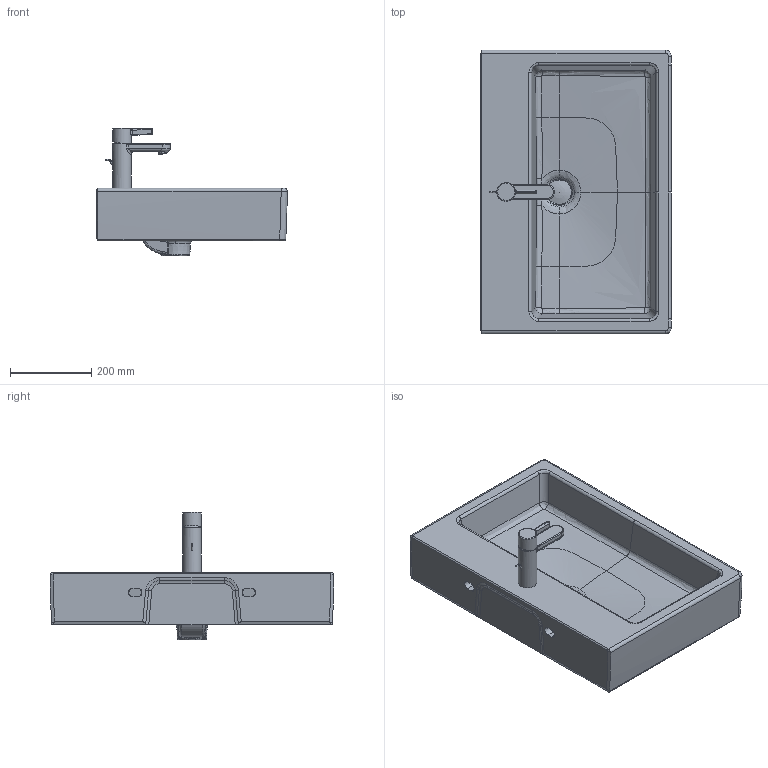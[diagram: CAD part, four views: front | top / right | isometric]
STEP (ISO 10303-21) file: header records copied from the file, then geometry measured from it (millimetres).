
FILE_DESCRIPTION((''),'2;1');
FILE_NAME('C:\Users\Administrator\Desktop\NEWS 2013\VERO WT 045470\3d\stp\045470.stp','2013-06-18T11:03:32',('Administrator'),(''),'Autodesk Inventor 2011','Autodesk Inventor 2011','');
FILE_SCHEMA(('CONFIG_CONTROL_DESIGN'));
Length unit declared in the file: millimetre
Products named in the file (10): 045470; Armatur Durastyle Waschtisch; Fassung Sieb; Griff; Gehäuse; Hebel_Ventil; Gleitring; Kelch; Stopfen
Assembly tree (9 placements, depth 3):
  045470
    045470
    Armatur Durastyle Waschtisch
      Fassung Sieb
      Griff
      Gehäuse
      Hebel_Ventil
      Gleitring
    Kelch
    Stopfen
Bounding box: 469.93 x 699.85 x 315.66 mm (x, y, z)
Volume: 16276089.2 mm3; surface area: 1291175.2 mm2
Topology: 7 solids, 9 shells, 494 faces, 1210 edges, 717 vertices
Faces by surface type: bspline 180, cylinder 141, plane 104, torus 37, cone 21, sphere 11
Full cylindrical faces by diameter (mm): 4 x2, 20.15 x1, 21.15 x1, 23.15 x1, 25 x1, 35 x1, 42 x1, 44 x1, 46 x2, 48.601 x1, 60 x1
Entity records: 44995 total; most frequent: CARTESIAN_POINT 33886, ORIENTED_EDGE 2272, DIRECTION 1912, EDGE_CURVE 1138, AXIS2_PLACEMENT_3D 779, VERTEX_POINT 697, EDGE_LOOP 563, FACE_OUTER_BOUND 493
